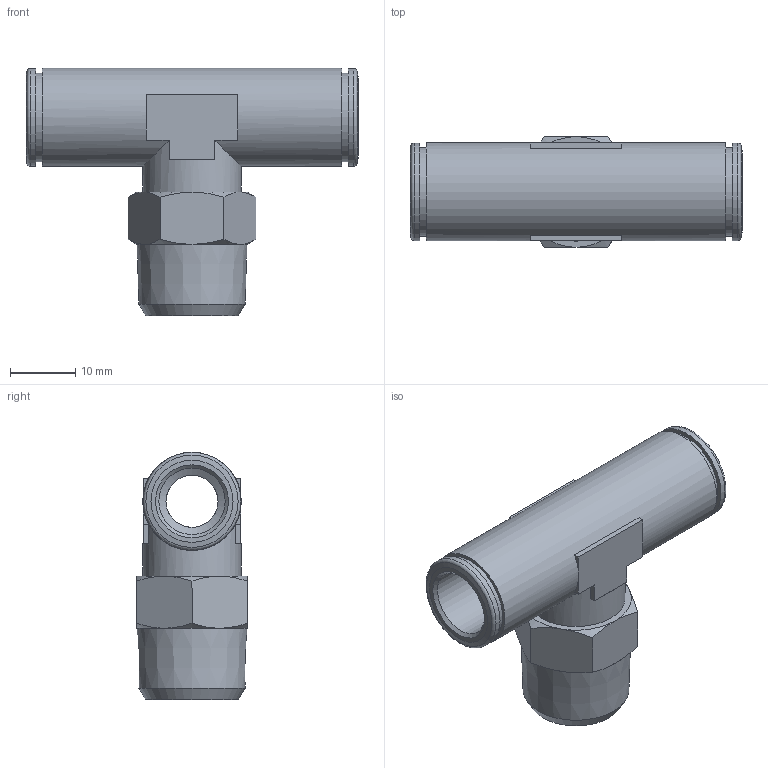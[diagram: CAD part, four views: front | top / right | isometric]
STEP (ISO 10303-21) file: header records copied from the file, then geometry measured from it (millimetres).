
FILE_DESCRIPTION(/* description */ (''),/* implementation_level */ '2;1');
FILE_NAME(/* name */ '202059-ES-I1-N2_STX020K_10_R38_06.07.16',/* time_stamp */ '2016-07-06T09:18:14+02:00',/* author */ (''),/* organization */ (''),/* preprocessor_version */ 'ST-DEVELOPER v16.5',/* originating_system */ 'HiCAD 2016 2101.0 Build 254',/* authorisation */ '');
FILE_SCHEMA (('AUTOMOTIVE_DESIGN { 1 0 10303 214 1 1 1 1 }'));
Length unit declared in the file: millimetre
Products named in the file (5): Root; 214637-1_Gew-Stck_1-4_3-8; R202008-ES-N; DR10-N
Assembly tree (4 placements, depth 2):
  Root
    214637-1_Gew-Stck_1-4_3-8
    R202008-ES-N
    DR10-N
    DR10-N
Bounding box: 51 x 17 x 38.05 mm (x, y, z)
Volume: 7626.7 mm3; surface area: 8549.8 mm2
Topology: 4 solids, 4 shells, 118 faces, 261 edges, 159 vertices
Faces by surface type: plane 54, cone 37, cylinder 25, torus 2
Full cylindrical faces by diameter (mm): 8 x2, 10.2 x4, 11 x1, 12.2 x2, 12.3 x2, 13 x2, 13.5 x2, 13.6 x2, 13.7 x2, 15 x2, 15.1 x2
Entity records: 6059 total; most frequent: CARTESIAN_POINT 1592, DIRECTION 562, PRESENTATION_STYLE_ASSIGNMENT 398, COLOUR_RGB 395, DRAUGHTING_PRE_DEFINED_CURVE_FONT 394, CURVE_STYLE 394, OVER_RIDING_STYLED_ITEM 394, ORIENTED_EDGE 394
